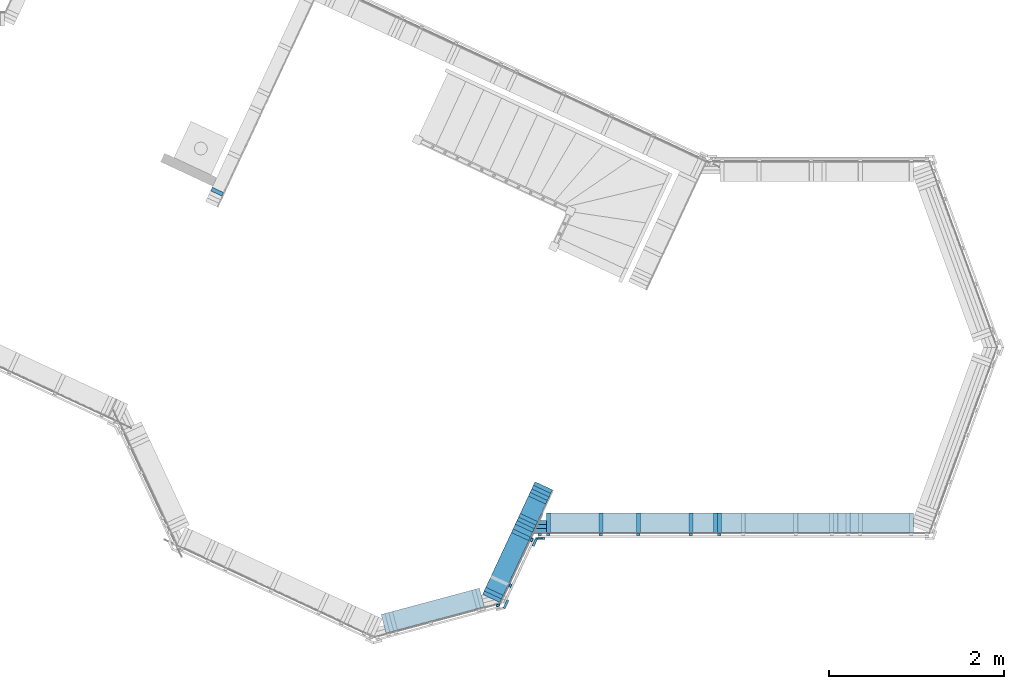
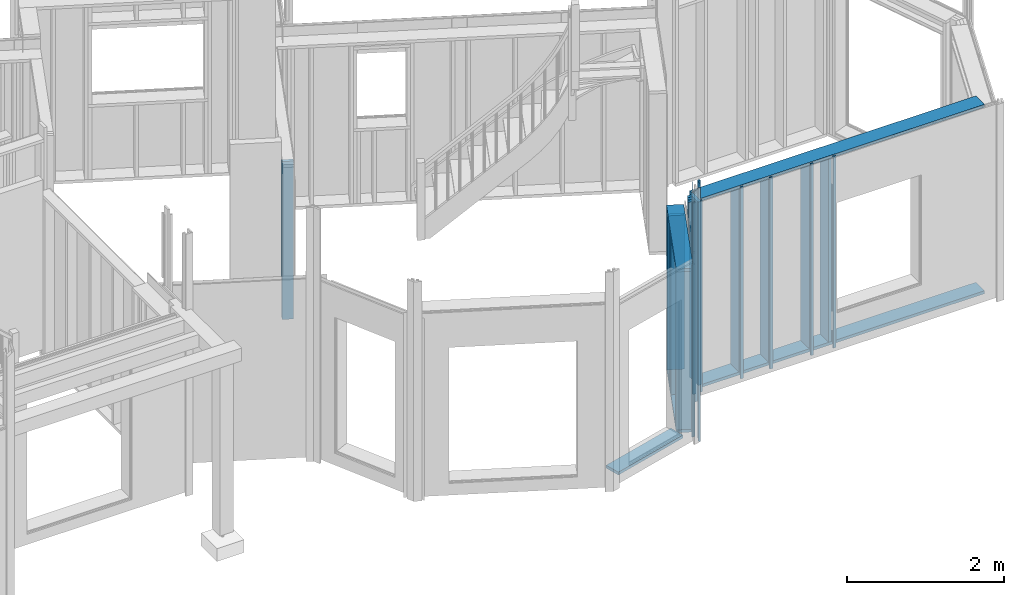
# One storey, part 10 of 34: 37 members.
"""IFC2X3 building model written with IfcOpenShell, lengths in metres."""

from ifc_helpers import new_model, si_unit, direction, frame, origin_with_axes, place, context, subcontext, project, spatial, faceted_brep, material, element, save


model = new_model("IFC2X3")

# Units and contexts
model_context = context("Model", 3, precision=1e-06, world=origin_with_axes(), true_north=direction((0.0, 1.0, 0.0)))
body_context = subcontext(model_context, "Body", "Model", "MODEL_VIEW")
ifc_project = project(units=[si_unit("LENGTHUNIT", "METRE"), si_unit("AREAUNIT", "SQUARE_METRE"), si_unit("VOLUMEUNIT", "CUBIC_METRE"), si_unit("PLANEANGLEUNIT", "RADIAN")], contexts=[model_context])

# Site, building, storey
site_placement = place(None, origin_with_axes())
site = spatial("IfcSite", under=ifc_project, at=site_placement, CompositionType="ELEMENT")
building_placement = place(site_placement, origin_with_axes())
building = spatial("IfcBuilding", under=site, at=building_placement, Name="Building 1", CompositionType="ELEMENT")
storey_placement = place(building_placement, origin_with_axes())
storey = spatial("IfcBuildingStorey", under=building, at=storey_placement, Name="Rez de chaussée", CompositionType="ELEMENT", Elevation=0.0)

# Members
ifc_material_1 = material(Name="Epicéa C24")
member_1_placement = place(storey_placement, frame((13.1883955, -0.2005562, 2.54), z_axis=(0.9063078, -0.4226183, 0.0), x_axis=(0.0, 0.0, -1.0)))
element("IfcMember", 1, at=member_1_placement, inside=storey, material=ifc_material_1, Name="Montant", context=body_context, shape_type="Brep", body=[
    faceted_brep([(2.45, -0.0225, -0.11), (2.45, -0.0225, 0.11), (0.0, -0.0225, 0.11), (0.0, -0.0225, -0.11), (2.45, 0.0225, -0.11), (0.0, 0.0225, -0.11), (2.45, 0.0225, 0.11), (0.0, 0.0225, 0.11)], [[[0, 1, 2, 3]], [[4, 0, 3, 5]], [[6, 4, 5, 7]], [[0, 4, 6, 1]], [[7, 2, 1, 6]], [[2, 7, 5, 3]]]),
])
ifc_material_2 = material(Name="NH II")
member_2_placement = place(storey_placement, frame((13.3490127, -0.3797201, -0.08), z_axis=(-1.0, 0.0, 0.0), x_axis=(0.0, 0.0, 1.0)))
element("IfcMember", 2, at=member_2_placement, inside=storey, material=ifc_material_2, Name="Couvre joint", context=body_context, shape_type="Brep", body=[
    faceted_brep([(3.41, 0.0135, 0.0525), (0.0, 0.0135, 0.0525), (0.0, -0.0135, 0.0352991), (3.2312554, -0.0135, 0.0352991), (3.2372557, 0.0045, 0.0467663), (3.26, 0.0045, 0.0467663), (3.26, 0.0125, 0.0518629), (3.41, 0.0125, 0.0518629), (3.2523836, 0.0045, -0.021643), (3.26, 0.0045, -0.021643), (3.2419913, -0.0135, -0.0132495), (0.0, -0.0135, -0.0525), (3.41, -0.0135, -0.0525), (3.41, -0.0135, -0.0132495), (0.0, 0.0135, -0.0525), (3.41, 0.0135, -0.0258398), (3.26, 0.0135, -0.0258398), (3.26, 0.0135, 0.0513966), (3.41, 0.0135, 0.0513966), (3.41, 0.0135, -0.0525)], [[[0, 1, 2, 3, 4, 5, 6, 7]], [[5, 4, 8, 9]], [[4, 3, 10, 8]], [[3, 2, 11, 12, 13, 10]], [[2, 1, 14, 11]], [[10, 13, 15, 16, 9, 8]], [[7, 6, 17, 18]], [[6, 5, 9, 16, 17]], [[0, 7, 18]], [[15, 13, 12, 19]], [[12, 11, 14, 19]], [[16, 15, 19, 14, 1, 0, 18, 17]]]),
])
member_3_placement = place(storey_placement, frame((15.3530365, -0.19822, 2.935), z_axis=(0.0, -1.0, 0.0), x_axis=(0.0, 0.0, -1.0)))
element("IfcMember", 3, at=member_3_placement, inside=storey, material=ifc_material_1, Name="Montant", context=body_context, shape_type="Brep", body=[
    faceted_brep([(2.845, -0.0225, -0.11), (2.845, 0.0225, -0.11), (2.845, 0.0225, 0.11), (2.845, -0.0225, 0.11), (0.0, -0.0225, 0.11), (0.0, -0.0225, -0.11), (0.0, 0.0225, -0.11), (0.0, 0.0225, 0.11)], [[[0, 1, 2, 3]], [[0, 3, 4, 5]], [[1, 0, 5, 6]], [[2, 1, 6, 7]], [[3, 2, 7, 4]], [[4, 7, 6, 5]]]),
])
member_4_placement = place(storey_placement, frame((13.3199103, 0.0814781, 2.54), z_axis=(0.9063078, -0.4226183, 0.0), x_axis=(0.0, 0.0, -1.0)))
element("IfcMember", 4, at=member_4_placement, inside=storey, material=ifc_material_1, Name="Montant", context=body_context, shape_type="Brep", body=[
    faceted_brep([(2.45, -0.0225, -0.11), (2.45, -0.0225, 0.11), (0.0, -0.0225, 0.11), (0.0, -0.0225, -0.11), (2.45, 0.0225, -0.11), (0.0, 0.0225, -0.11), (2.45, 0.0225, 0.11), (0.0, 0.0225, 0.11)], [[[0, 1, 2, 3]], [[4, 0, 3, 5]], [[6, 4, 5, 7]], [[0, 4, 6, 1]], [[7, 2, 1, 6]], [[2, 7, 5, 3]]]),
])
member_5_placement = place(storey_placement, frame((13.4403032, -0.33322, 2.975), z_axis=(0.0, -1.0, 0.0), x_axis=(0.0, 0.0, -1.0)))
element("IfcMember", 5, at=member_5_placement, inside=storey, material=ifc_material_1, Name="latte 27/40", context=body_context, shape_type="Brep", body=[
    faceted_brep([(2.97, -0.02, 0.012), (2.97, 0.02, 0.012), (0.0, 0.02, 0.012), (0.0, -0.02, 0.012), (0.0, 0.02, -0.012), (0.0, -0.02, -0.012), (2.97, 0.02, -0.012), (2.97, -0.02, -0.012)], [[[0, 1, 2, 3]], [[3, 2, 4, 5]], [[2, 1, 6, 4]], [[1, 0, 7, 6]], [[6, 7, 5, 4]], [[0, 3, 5, 7]]]),
])
member_6_placement = place(storey_placement, frame((12.9547445, -1.1310881, -0.08), z_axis=(-0.4226183, -0.9063078, 0.0), x_axis=(0.0, 0.0, 1.0)))
element("IfcMember", 6, at=member_6_placement, inside=storey, material=ifc_material_2, Name="Couvre joint", context=body_context, shape_type="Brep", body=[
    faceted_brep([(0.0, 0.0135, 0.0516584), (0.0, -0.0135, 0.0525), (3.9386408, -0.0135, 0.0525), (3.9386408, 0.0135, 0.0516584), (0.0, 0.0135, -0.0525), (0.0, -0.0135, -0.0525), (3.9386408, -0.0135, -0.0525), (3.9386408, 0.0135, -0.0525)], [[[0, 1, 2, 3]], [[1, 0, 4, 5]], [[3, 2, 6, 7]], [[6, 5, 4, 7]], [[2, 1, 5, 6]], [[0, 3, 7, 4]]]),
])
member_7_placement = place(storey_placement, frame((13.2865604, -0.4195066, -0.08), z_axis=(-0.4226183, -0.9063078, 0.0), x_axis=(0.0, 0.0, 1.0)))
element("IfcMember", 7, at=member_7_placement, inside=storey, material=ifc_material_2, Name="Couvre joint", context=body_context, shape_type="Brep", body=[
    faceted_brep([(3.2402559, 0.0135, -0.0525), (3.2312554, -0.0135, -0.0352991), (0.0, -0.0135, -0.0352991), (0.0, 0.0135, -0.0525), (0.0, -0.0135, 0.0525), (0.0, 0.0135, 0.0525), (3.1853139, -0.0135, 0.0525), (3.1853139, 0.0135, 0.0525)], [[[0, 1, 2, 3]], [[3, 2, 4, 5]], [[2, 1, 6, 4]], [[1, 0, 7, 6]], [[7, 0, 3, 5]], [[6, 7, 5, 4]]]),
])
member_8_placement = place(storey_placement, frame((12.7848131, -1.0660415, 0.0675), z_axis=(-0.9063078, 0.4226183, 0.0), x_axis=(0.4226183, 0.9063078, 0.0)))
element("IfcMember", 8, at=member_8_placement, inside=storey, material=ifc_material_1, Name="Lisse basse", context=body_context, shape_type="Brep", body=[
    faceted_brep([(1.4236478, -0.0225, -0.11), (0.0, -0.0225, -0.11), (0.0, 0.0225, -0.11), (1.4236478, 0.0225, -0.11), (1.4236478, 0.0225, 0.11), (1.4236478, -0.0225, 0.11), (0.0, -0.0225, 0.11), (0.0, 0.0225, 0.11)], [[[0, 1, 2, 3]], [[4, 5, 0, 3]], [[5, 6, 1, 0]], [[7, 4, 3, 2]], [[6, 5, 4, 7]], [[6, 7, 2, 1]]]),
])
member_9_placement = place(storey_placement, frame((9.6459763, 3.5919534, 2.54), z_axis=(0.9063078, -0.4226183, 0.0), x_axis=(0.0, 0.0, -1.0)))
element("IfcMember", 9, at=member_9_placement, inside=storey, material=ifc_material_1, Name="Montant", context=body_context, shape_type="Brep", body=[
    faceted_brep([(2.45, -0.0225, -0.0725), (2.45, 0.0225, -0.0725), (2.45, 0.0225, 0.0725), (2.45, -0.0225, 0.0725), (0.0, -0.0225, 0.0725), (0.0, -0.0225, -0.0725), (0.0, 0.0225, -0.0725), (0.0, 0.0225, 0.0725)], [[[0, 1, 2, 3]], [[0, 3, 4, 5]], [[1, 0, 5, 6]], [[2, 1, 6, 7]], [[3, 2, 7, 4]], [[4, 7, 6, 5]]]),
])
for number, where, z_axis, x_axis, name in (
    (10, (15.3980365, -0.33322, 2.975), (0.0, -1.0, 0.0), (0.0, 0.0, -1.0), "latte 27/40"),
    (11, (14.0403032, -0.33322, 2.975), (0.0, -1.0, 0.0), (0.0, 0.0, -1.0), "latte 27/40"),
):
    element("IfcMember", number, at=place(storey_placement, frame(where, z_axis=z_axis, x_axis=x_axis)), inside=storey, material=ifc_material_1, Name=name, context=body_context, shape_type="Brep", body=[
        faceted_brep([(2.97, -0.02, 0.012), (2.97, 0.02, 0.012), (0.0, 0.02, 0.012), (0.0, -0.02, 0.012), (0.0, 0.02, -0.012), (0.0, -0.02, -0.012), (2.97, 0.02, -0.012), (2.97, -0.02, -0.012)], [[[0, 1, 2, 3]], [[3, 2, 4, 5]], [[2, 1, 6, 4]], [[1, 0, 7, 6]], [[6, 7, 5, 4]], [[0, 3, 5, 7]]]),
    ])
member_10_placement = place(storey_placement, frame((15.3980365, -0.19822, 2.475), z_axis=(0.0, -1.0, 0.0), x_axis=(0.0, 0.0, -1.0)))
element("IfcMember", 12, at=member_10_placement, inside=storey, material=ifc_material_1, Name="Montant", context=body_context, shape_type="Brep", body=[
    faceted_brep([(1.923, -0.0225, -0.11), (1.923, -0.0225, 0.11), (0.0, -0.0225, 0.11), (0.0, -0.0225, -0.11), (1.923, 0.0225, -0.11), (0.0, 0.0225, -0.11), (1.923, 0.0225, 0.11), (0.0, 0.0225, 0.11)], [[[0, 1, 2, 3]], [[4, 0, 3, 5]], [[6, 4, 5, 7]], [[1, 6, 7, 2]], [[0, 4, 6, 1]], [[2, 7, 5, 3]]]),
])
for number, where, z_axis, x_axis, name in (
    (13, (13.3428032, -0.33322, 2.975), (0.0, -1.0, 0.0), (0.0, 0.0, -1.0), "latte chantier"),
    (14, (14.4708032, -0.33322, 2.975), (0.0, -1.0, 0.0), (0.0, 0.0, -1.0), "latte 27/40"),
):
    element("IfcMember", number, at=place(storey_placement, frame(where, z_axis=z_axis, x_axis=x_axis)), inside=storey, material=ifc_material_1, Name=name, context=body_context, shape_type="Brep", body=[
        faceted_brep([(2.97, -0.02, 0.012), (2.97, 0.02, 0.012), (0.0, 0.02, 0.012), (0.0, -0.02, 0.012), (0.0, 0.02, -0.012), (0.0, -0.02, -0.012), (2.97, 0.02, -0.012), (2.97, -0.02, -0.012)], [[[0, 1, 2, 3]], [[3, 2, 4, 5]], [[2, 1, 6, 4]], [[1, 0, 7, 6]], [[6, 7, 5, 4]], [[0, 3, 5, 7]]]),
    ])
member_11_placement = place(storey_placement, frame((13.1248126, -0.3369103, 2.54), z_axis=(0.9063078, -0.4226183, 0.0), x_axis=(0.0, 0.0, -1.0)))
element("IfcMember", 15, at=member_11_placement, inside=storey, material=ifc_material_1, Name="Montant", context=body_context, shape_type="Brep", body=[
    faceted_brep([(2.45, -0.0225, -0.11), (2.45, -0.0225, 0.11), (0.0, -0.0225, 0.11), (0.0, -0.0225, -0.11), (2.45, 0.0225, -0.11), (0.0, 0.0225, -0.11), (2.45, 0.0225, 0.11), (0.0, 0.0225, 0.11)], [[[0, 1, 2, 3]], [[4, 0, 3, 5]], [[6, 4, 5, 7]], [[0, 4, 6, 1]], [[7, 2, 1, 6]], [[2, 7, 5, 3]]]),
])
for number, where, z_axis, x_axis, name in (
    (16, (14.4708032, -0.19822, 2.935), (0.0, -1.0, 0.0), (0.0, 0.0, -1.0), "Montant"),
    (17, (15.0708032, -0.19822, 2.935), (0.0, -1.0, 0.0), (0.0, 0.0, -1.0), "Montant"),
):
    element("IfcMember", number, at=place(storey_placement, frame(where, z_axis=z_axis, x_axis=x_axis)), inside=storey, material=ifc_material_1, Name=name, context=body_context, shape_type="Brep", body=[
        faceted_brep([(2.845, -0.0225, -0.11), (2.845, 0.0225, -0.11), (2.845, 0.0225, 0.11), (2.845, -0.0225, 0.11), (0.0, -0.0225, 0.11), (0.0, -0.0225, -0.11), (0.0, 0.0225, -0.11), (0.0, 0.0225, 0.11)], [[[0, 1, 2, 3]], [[0, 3, 4, 5]], [[1, 0, 5, 6]], [[2, 1, 6, 7]], [[3, 2, 7, 4]], [[4, 7, 6, 5]]]),
    ])
member_12_placement = place(storey_placement, frame((15.0708032, -0.33322, 2.975), z_axis=(0.0, -1.0, 0.0), x_axis=(0.0, 0.0, -1.0)))
element("IfcMember", 18, at=member_12_placement, inside=storey, material=ifc_material_1, Name="latte 27/40", context=body_context, shape_type="Brep", body=[
    faceted_brep([(2.97, -0.02, 0.012), (2.97, 0.02, 0.012), (0.0, 0.02, 0.012), (0.0, -0.02, 0.012), (0.0, 0.02, -0.012), (0.0, -0.02, -0.012), (2.97, 0.02, -0.012), (2.97, -0.02, -0.012)], [[[0, 1, 2, 3]], [[3, 2, 4, 5]], [[2, 1, 6, 4]], [[1, 0, 7, 6]], [[6, 7, 5, 4]], [[0, 3, 5, 7]]]),
])
member_13_placement = place(storey_placement, frame((13.3453032, -0.28572, 2.98), z_axis=(-1.0, 0.0, 0.0), x_axis=(0.0, 0.0, -1.0)))
element("IfcMember", 19, at=member_13_placement, inside=storey, material=ifc_material_1, Name="Montant", context=body_context, shape_type="Brep", body=[
    faceted_brep([(0.0, 0.0225, 0.0725), (2.935, 0.0225, 0.0725), (2.935, 0.0225, -0.0725), (0.0, 0.0225, -0.0725), (2.935, -0.0225, -0.0725), (0.0, -0.0225, -0.0725), (2.935, -0.0225, 0.0515162), (0.0, -0.0225, 0.0515162)], [[[0, 1, 2, 3]], [[2, 4, 5, 3]], [[6, 7, 5, 4]], [[7, 0, 3, 5]], [[6, 1, 0, 7]], [[1, 6, 4, 2]]]),
])
member_14_placement = place(storey_placement, frame((13.0025276, -0.9185886, 2.675), z_axis=(0.9063078, -0.4226183, 0.0), x_axis=(0.0, 0.0, -1.0)))
element("IfcMember", 20, at=member_14_placement, inside=storey, material=ifc_material_1, Name="latte 27/40", context=body_context, shape_type="Brep", body=[
    faceted_brep([(2.67, 0.02, -0.012), (2.67, 0.02, 0.012), (2.67, -0.02, 0.012), (2.67, -0.02, -0.012), (0.0, 0.02, 0.012), (0.0, 0.02, -0.012), (0.0, -0.02, -0.012), (0.0, -0.02, 0.012)], [[[0, 1, 2, 3]], [[4, 5, 6, 7]], [[3, 6, 5, 0]], [[2, 7, 6, 3]], [[1, 4, 7, 2]], [[0, 5, 4, 1]]]),
])
member_15_placement = place(storey_placement, frame((13.3389281, 0.122262, 2.48), z_axis=(0.9063078, -0.4226183, 0.0), x_axis=(0.0, 0.0, -1.0)))
element("IfcMember", 21, at=member_15_placement, inside=storey, material=ifc_material_1, Name="Montant", context=body_context, shape_type="Brep", body=[
    faceted_brep([(2.39, -0.0225, -0.11), (2.39, 0.0225, -0.11), (2.39, 0.0225, 0.11), (2.39, -0.0225, 0.11), (0.0, -0.0225, 0.11), (0.0, -0.0225, -0.11), (0.0, 0.0225, -0.11), (0.0, 0.0225, 0.11)], [[[0, 1, 2, 3]], [[0, 3, 4, 5]], [[1, 0, 5, 6]], [[2, 1, 6, 7]], [[3, 2, 7, 4]], [[4, 7, 6, 5]]]),
])
member_16_placement = place(storey_placement, frame((12.8133399, -1.0048657, 2.54), z_axis=(0.9063078, -0.4226183, 0.0), x_axis=(0.0, 0.0, -1.0)))
element("IfcMember", 22, at=member_16_placement, inside=storey, material=ifc_material_1, Name="Montant", context=body_context, shape_type="Brep", body=[
    faceted_brep([(2.45, -0.0225, -0.11), (2.45, -0.0225, 0.11), (0.0, -0.0225, 0.11), (0.0, -0.0225, -0.11), (2.45, 0.0225, -0.11), (0.0, 0.0225, -0.11), (2.45, 0.0225, 0.11), (0.0, 0.0225, 0.11)], [[[0, 1, 2, 3]], [[4, 0, 3, 5]], [[6, 4, 5, 7]], [[0, 4, 6, 1]], [[7, 2, 1, 6]], [[2, 7, 5, 3]]]),
])
member_17_placement = place(storey_placement, frame((13.3557951, -0.24072, 2.98), z_axis=(-1.0, 0.0, 0.0), x_axis=(0.0, 0.0, -1.0)))
element("IfcMember", 23, at=member_17_placement, inside=storey, material=ifc_material_1, Name="Montant", context=body_context, shape_type="Brep", body=[
    faceted_brep([(0.0, 0.0225, 0.0620081), (2.935, 0.0225, 0.0620081), (2.935, 0.0225, -0.0620081), (0.0, 0.0225, -0.0620081), (2.935, -0.0225, -0.0620081), (0.0, -0.0225, -0.0620081), (2.935, -0.0225, 0.0410242), (0.0, -0.0225, 0.0410242)], [[[0, 1, 2, 3]], [[2, 4, 5, 3]], [[6, 7, 5, 4]], [[7, 0, 3, 5]], [[6, 1, 0, 7]], [[1, 6, 4, 2]]]),
])
member_18_placement = place(storey_placement, frame((13.366287, -0.19572, 2.98), z_axis=(-1.0, 0.0, 0.0), x_axis=(0.0, 0.0, -1.0)))
element("IfcMember", 24, at=member_18_placement, inside=storey, material=ifc_material_1, Name="Montant", context=body_context, shape_type="Brep", body=[
    faceted_brep([(0.0, 0.0225, 0.0515162), (2.935, 0.0225, 0.0515162), (2.935, 0.0225, -0.0515162), (0.0, 0.0225, -0.0515162), (2.935, -0.0225, -0.0515162), (0.0, -0.0225, -0.0515162), (2.935, -0.0225, 0.0305323), (0.0, -0.0225, 0.0305323)], [[[0, 1, 2, 3]], [[2, 4, 5, 3]], [[6, 7, 5, 4]], [[7, 0, 3, 5]], [[6, 1, 0, 7]], [[1, 6, 4, 2]]]),
])
member_19_placement = place(storey_placement, frame((12.794322, -1.0456496, 2.54), z_axis=(0.9063078, -0.4226183, 0.0), x_axis=(0.0, 0.0, -1.0)))
element("IfcMember", 25, at=member_19_placement, inside=storey, material=ifc_material_1, Name="Montant", context=body_context, shape_type="Brep", body=[
    faceted_brep([(2.45, -0.0225, -0.11), (2.45, -0.0225, 0.11), (0.0, -0.0225, 0.11), (0.0, -0.0225, -0.11), (2.45, 0.0225, -0.11), (0.0, 0.0225, -0.11), (2.45, 0.0225, 0.11), (0.0, 0.0225, 0.11)], [[[0, 1, 2, 3]], [[4, 0, 3, 5]], [[6, 4, 5, 7]], [[0, 4, 6, 1]], [[7, 2, 1, 6]], [[2, 7, 5, 3]]]),
])
member_20_placement = place(storey_placement, frame((13.4178032, -0.19822, 2.9575), z_axis=(0.0, 1.0, 0.0), x_axis=(1.0, 0.0, 0.0)))
element("IfcMember", 26, at=member_20_placement, inside=storey, material=ifc_material_1, Name="Montant", context=body_context, shape_type="Brep", body=[
    faceted_brep([(4.2015219, 0.0225, 0.11), (4.2015219, -0.0225, 0.11), (4.2015219, -0.0225, -0.11), (4.2015219, 0.0225, -0.11), (0.0, -0.0225, -0.11), (0.0, -0.0225, 0.11), (0.0, 0.0225, -0.11), (0.0, 0.0225, 0.11)], [[[0, 1, 2, 3]], [[4, 2, 1, 5]], [[6, 3, 2, 4]], [[7, 0, 3, 6]], [[5, 1, 0, 7]], [[5, 7, 6, 4]]]),
])
member_21_placement = place(storey_placement, frame((13.2074134, -0.1597724, 2.54), z_axis=(0.9063078, -0.4226183, 0.0), x_axis=(0.0, 0.0, -1.0)))
element("IfcMember", 27, at=member_21_placement, inside=storey, material=ifc_material_1, Name="Montant", context=body_context, shape_type="Brep", body=[
    faceted_brep([(2.45, -0.0225, -0.11), (2.45, -0.0225, 0.11), (0.0, -0.0225, 0.11), (0.0, -0.0225, -0.11), (2.45, 0.0225, -0.11), (0.0, 0.0225, -0.11), (2.45, 0.0225, 0.11), (0.0, 0.0225, 0.11)], [[[0, 1, 2, 3]], [[4, 0, 3, 5]], [[6, 4, 5, 7]], [[0, 4, 6, 1]], [[7, 2, 1, 6]], [[2, 7, 5, 3]]]),
])
member_22_placement = place(storey_placement, frame((14.0403032, -0.19822, 2.935), z_axis=(0.0, -1.0, 0.0), x_axis=(0.0, 0.0, -1.0)))
element("IfcMember", 28, at=member_22_placement, inside=storey, material=ifc_material_1, Name="Montant", context=body_context, shape_type="Brep", body=[
    faceted_brep([(2.845, -0.0225, -0.11), (2.845, 0.0225, -0.11), (2.845, 0.0225, 0.11), (2.845, -0.0225, 0.11), (0.0, -0.0225, 0.11), (0.0, -0.0225, -0.11), (0.0, 0.0225, -0.11), (0.0, 0.0225, 0.11)], [[[0, 1, 2, 3]], [[0, 3, 4, 5]], [[1, 0, 5, 6]], [[2, 1, 6, 7]], [[3, 2, 7, 4]], [[4, 7, 6, 5]]]),
])
member_23_placement = place(storey_placement, frame((13.4178032, -0.19822, 0.0675), z_axis=(0.0, 1.0, 0.0), x_axis=(1.0, 0.0, 0.0)))
element("IfcMember", 29, at=member_23_placement, inside=storey, material=ifc_material_1, Name="Lisse basse", context=body_context, shape_type="Brep", body=[
    faceted_brep([(4.2015219, 0.0225, 0.11), (4.2015219, -0.0225, 0.11), (4.2015219, -0.0225, -0.11), (4.2015219, 0.0225, -0.11), (0.0, -0.0225, -0.11), (0.0, -0.0225, 0.11), (0.0, 0.0225, -0.11), (0.0, 0.0225, 0.11)], [[[0, 1, 2, 3]], [[4, 2, 1, 5]], [[6, 3, 2, 4]], [[7, 0, 3, 6]], [[5, 1, 0, 7]], [[5, 7, 6, 4]]]),
])
member_24_placement = place(storey_placement, frame((13.4403032, -0.19822, 2.935), z_axis=(0.0, -1.0, 0.0), x_axis=(0.0, 0.0, -1.0)))
element("IfcMember", 30, at=member_24_placement, inside=storey, material=ifc_material_1, Name="Montant", context=body_context, shape_type="Brep", body=[
    faceted_brep([(2.845, -0.0225, -0.11), (2.845, 0.0225, -0.11), (2.845, 0.0225, 0.11), (2.845, -0.0225, 0.11), (0.0, -0.0225, 0.11), (0.0, -0.0225, -0.11), (0.0, 0.0225, -0.11), (0.0, 0.0225, 0.11)], [[[0, 1, 2, 3]], [[0, 3, 4, 5]], [[1, 0, 5, 6]], [[2, 1, 6, 7]], [[3, 2, 7, 4]], [[4, 7, 6, 5]]]),
])
member_25_placement = place(storey_placement, frame((13.357946, 0.1630458, 2.48), z_axis=(0.9063078, -0.4226183, 0.0), x_axis=(0.0, 0.0, -1.0)))
element("IfcMember", 31, at=member_25_placement, inside=storey, material=ifc_material_1, Name="Montant", context=body_context, shape_type="Brep", body=[
    faceted_brep([(2.39, -0.0225, -0.11), (2.39, 0.0225, -0.11), (2.39, 0.0225, 0.11), (2.39, -0.0225, 0.11), (0.0, -0.0225, 0.11), (0.0, -0.0225, -0.11), (0.0, 0.0225, -0.11), (0.0, 0.0225, 0.11)], [[[0, 1, 2, 3]], [[0, 3, 4, 5]], [[1, 0, 5, 6]], [[2, 1, 6, 7]], [[3, 2, 7, 4]], [[4, 7, 6, 5]]]),
])
member_26_placement = place(storey_placement, frame((11.5519451, -1.355708, 0.0675), z_axis=(-0.258819, 0.9659258, 0.0), x_axis=(0.9659258, 0.258819, 0.0)))
element("IfcMember", 32, at=member_26_placement, inside=storey, material=ifc_material_1, Name="Lisse basse", context=body_context, shape_type="Brep", body=[
    faceted_brep([(1.165, 0.0225, 0.11), (1.165, -0.0225, 0.11), (1.165, -0.0225, -0.11), (1.165, 0.0225, -0.11), (0.0, -0.0225, -0.11), (0.0, -0.0225, 0.11), (0.0, 0.0225, -0.11), (0.0, 0.0225, 0.11)], [[[0, 1, 2, 3]], [[4, 2, 1, 5]], [[6, 3, 2, 4]], [[7, 0, 3, 6]], [[5, 1, 0, 7]], [[5, 7, 6, 4]]]),
])
member_27_placement = place(storey_placement, frame((12.7848131, -1.0660415, 2.5625), z_axis=(-0.9063078, 0.4226183, 0.0), x_axis=(0.4226183, 0.9063078, 0.0)))
element("IfcMember", 33, at=member_27_placement, inside=storey, material=ifc_material_1, Name="Montant", context=body_context, shape_type="Brep", body=[
    faceted_brep([(1.4236478, -0.0225, -0.11), (0.0, -0.0225, -0.11), (0.0, 0.0225, -0.11), (1.4236478, 0.0225, -0.11), (1.4236478, 0.0225, 0.11), (1.4236478, -0.0225, 0.11), (0.0, -0.0225, 0.11), (0.0, 0.0225, 0.11)], [[[0, 1, 2, 3]], [[4, 5, 0, 3]], [[5, 6, 1, 0]], [[7, 4, 3, 2]], [[6, 5, 4, 7]], [[6, 7, 2, 1]]]),
])
member_28_placement = place(storey_placement, frame((12.8619997, -1.1444422, 2.675), z_axis=(0.258819, -0.9659258, 0.0), x_axis=(0.0, 0.0, -1.0)))
element("IfcMember", 34, at=member_28_placement, inside=storey, material=ifc_material_1, Name="latte chantier", context=body_context, shape_type="Brep", body=[
    faceted_brep([(2.67, 0.02, -0.012), (2.67, 0.02, 0.012), (2.67, -0.02, 0.012), (2.67, -0.02, -0.012), (0.0, 0.02, 0.012), (0.0, 0.02, -0.012), (0.0, -0.02, -0.012), (0.0, -0.02, 0.012)], [[[0, 1, 2, 3]], [[4, 5, 6, 7]], [[3, 6, 5, 0]], [[2, 7, 6, 3]], [[1, 4, 7, 2]], [[0, 5, 4, 1]]]),
])
for number, where, z_axis, x_axis, name in (
    (35, (13.3769638, 0.2038297, 2.54), (0.9063078, -0.4226183, 0.0), (0.0, 0.0, -1.0), "Montant"),
    (36, (13.1693777, -0.2413401, 2.54), (0.9063078, -0.4226183, 0.0), (0.0, 0.0, -1.0), "Montant"),
):
    element("IfcMember", number, at=place(storey_placement, frame(where, z_axis=z_axis, x_axis=x_axis)), inside=storey, material=ifc_material_1, Name=name, context=body_context, shape_type="Brep", body=[
        faceted_brep([(2.45, -0.0225, -0.11), (2.45, -0.0225, 0.11), (0.0, -0.0225, 0.11), (0.0, -0.0225, -0.11), (2.45, 0.0225, -0.11), (0.0, 0.0225, -0.11), (2.45, 0.0225, 0.11), (0.0, 0.0225, 0.11)], [[[0, 1, 2, 3]], [[4, 0, 3, 5]], [[6, 4, 5, 7]], [[0, 4, 6, 1]], [[7, 2, 1, 6]], [[2, 7, 5, 3]]]),
    ])
member_29_placement = place(storey_placement, frame((13.2471641, -0.3939638, 2.675), z_axis=(0.9063078, -0.4226183, 0.0), x_axis=(0.0, 0.0, -1.0)))
element("IfcMember", 37, at=member_29_placement, inside=storey, material=ifc_material_1, Name="latte 27/40", context=body_context, shape_type="Brep", body=[
    faceted_brep([(2.67, 0.02, -0.012), (2.67, 0.02, 0.012), (2.67, -0.02, 0.012), (2.67, -0.02, -0.012), (0.0, 0.02, 0.012), (0.0, 0.02, -0.012), (0.0, -0.02, -0.012), (0.0, -0.02, 0.012)], [[[0, 1, 2, 3]], [[4, 5, 6, 7]], [[3, 6, 5, 0]], [[2, 7, 6, 3]], [[1, 4, 7, 2]], [[0, 5, 4, 1]]]),
])

save(model, "model.ifc")
